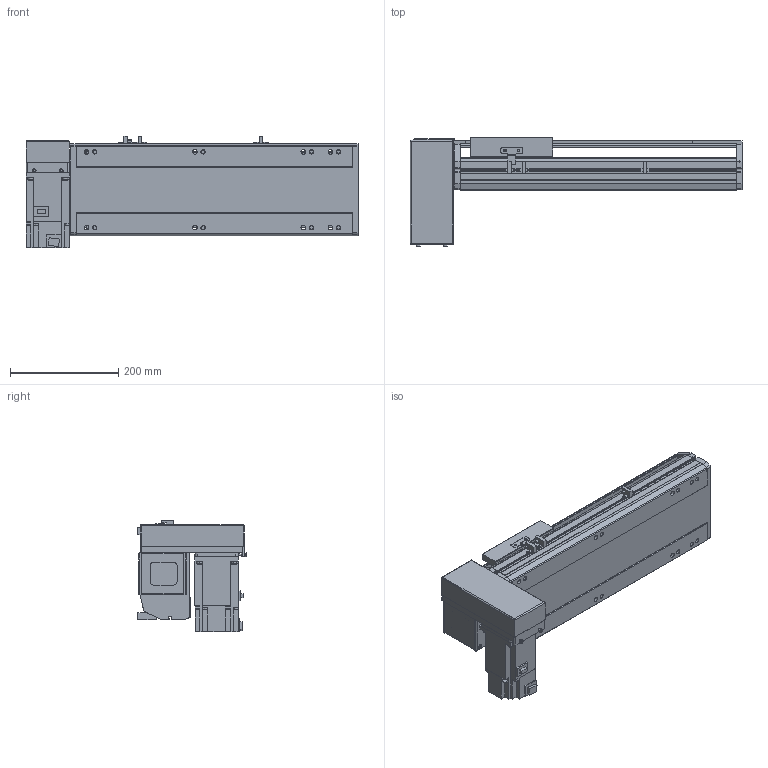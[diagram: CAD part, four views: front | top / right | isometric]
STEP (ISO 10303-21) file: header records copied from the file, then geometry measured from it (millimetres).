
FILE_DESCRIPTION(/* description */ ('STEP AP214'),/* implementation_level */ '2;1');
FILE_NAME(/* name */ 'PBS170-P40-S250-RD-T75-C1-N(0)',/* time_stamp */ '2022-06-08T07:34:08+02:00',/* author */ ('License CC BY-ND 4.0'),/* organization */ ('CADENAS'),/* preprocessor_version */ 'ST-DEVELOPER v18.102',/* originating_system */ 'PARTsolutions',/* authorisation */ ' ');
FILE_SCHEMA (('AUTOMOTIVE_DESIGN {1 0 10303 214 3 1 1}'));
Length unit declared in the file: millimetre
Products named in the file (7): PBS170-P40-S250-RD-T75-C1-N(0); PBS170_sensor; PBS170_plant; PBS170_sliser; T75-p1; PBS170T-RD_motors; PBS170-S250()_body
Assembly tree (8 placements, depth 2):
  PBS170-P40-S250-RD-T75-C1-N(0)
    PBS170_sensor  x3
    PBS170_plant
    PBS170_sliser
    T75-p1
    PBS170T-RD_motors
    PBS170-S250()_body
Bounding box: 613 x 201 x 205.3 mm (x, y, z)
Volume: 5643707.3 mm3; surface area: 796494.4 mm2
Topology: 8 solids, 8 shells, 1018 faces, 2715 edges, 1770 vertices
Faces by surface type: plane 663, cylinder 307, cone 38, sphere 8, torus 2
Full cylindrical faces by diameter (mm): 3.242 x4, 4 x2, 4.4 x4, 4.5 x6, 4.917 x4, 6 x9, 6.647 x16, 7 x2, 7.5 x4, 8 x8, 8.5 x8, 10 x4, 10.5 x8, 11 x2, 30 x2, 40 x1, 70 x1
Entity records: 29286 total; most frequent: CARTESIAN_POINT 5265, DIRECTION 5020, ORIENTED_EDGE 4788, EDGE_CURVE 2394, AXIS2_PLACEMENT_3D 1717, VERTEX_POINT 1634, LINE 1586, VECTOR 1586
